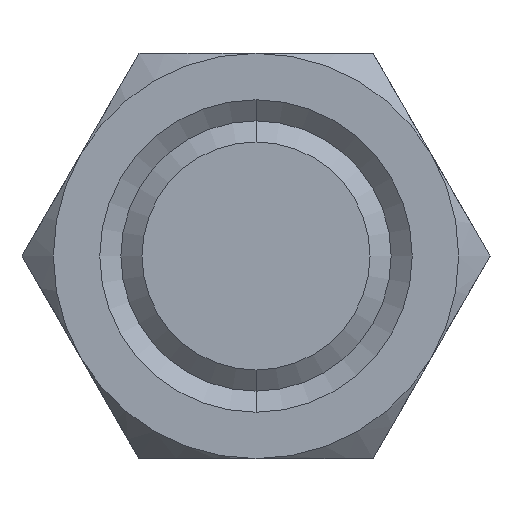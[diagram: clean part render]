
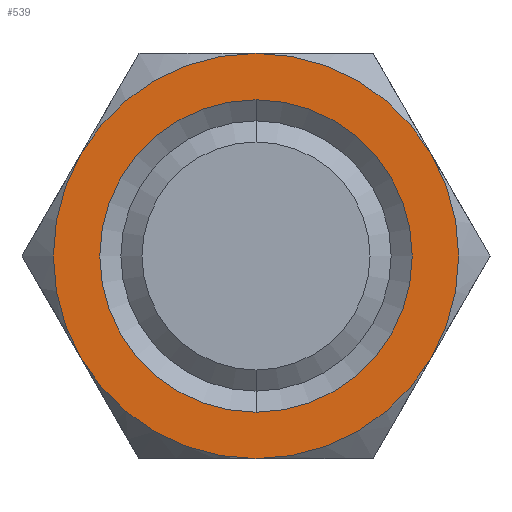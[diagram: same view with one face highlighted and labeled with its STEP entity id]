
A CAD part, front view. The second image highlights one B-rep face of the part: STEP entity #539.
In plain terms, the highlighted planar face has unit normal (0, -1, 0).
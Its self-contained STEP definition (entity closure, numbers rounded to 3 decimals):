
#539 = ADVANCED_FACE ( 'NONE', ( #2304, #2303 ), #2302, .F. ) ;
#540 = EDGE_LOOP ( 'NONE', ( #541, #545, #624, #627, #630, #633 ) ) ;
#541 = ORIENTED_EDGE ( 'NONE', *, *, #542, .F. ) ;
#542 = EDGE_CURVE ( 'NONE', #543, #544, #2295, .T. ) ;
#543 = VERTEX_POINT ( 'NONE', #2354 ) ;
#544 = VERTEX_POINT ( 'NONE', #2353 ) ;
#545 = ORIENTED_EDGE ( 'NONE', *, *, #622, .F. ) ;
#568 = VERTEX_POINT ( 'NONE', #2366 ) ;
#570 = EDGE_CURVE ( 'NONE', #568, #571, #2365, .T. ) ;
#571 = VERTEX_POINT ( 'NONE', #2360 ) ;
#609 = ORIENTED_EDGE ( 'NONE', *, *, #610, .F. ) ;
#610 = EDGE_CURVE ( 'NONE', #571, #568, #2418, .T. ) ;
#611 = ORIENTED_EDGE ( 'NONE', *, *, #570, .F. ) ;
#622 = EDGE_CURVE ( 'NONE', #623, #543, #2452, .T. ) ;
#623 = VERTEX_POINT ( 'NONE', #2444 ) ;
#624 = ORIENTED_EDGE ( 'NONE', *, *, #625, .F. ) ;
#625 = EDGE_CURVE ( 'NONE', #626, #623, #2506, .T. ) ;
#626 = VERTEX_POINT ( 'NONE', #2501 ) ;
#627 = ORIENTED_EDGE ( 'NONE', *, *, #628, .F. ) ;
#628 = EDGE_CURVE ( 'NONE', #629, #626, #2500, .T. ) ;
#629 = VERTEX_POINT ( 'NONE', #2495 ) ;
#630 = ORIENTED_EDGE ( 'NONE', *, *, #631, .T. ) ;
#631 = EDGE_CURVE ( 'NONE', #629, #632, #2494, .T. ) ;
#632 = VERTEX_POINT ( 'NONE', #2489 ) ;
#633 = ORIENTED_EDGE ( 'NONE', *, *, #634, .F. ) ;
#634 = EDGE_CURVE ( 'NONE', #544, #632, #2488, .T. ) ;
#635 = EDGE_LOOP ( 'NONE', ( #609, #611 ) ) ;
#2292 = DIRECTION ( 'NONE',  ( 0., 0., 1. ) ) ;
#2293 = DIRECTION ( 'NONE',  ( 0., 1., 0. ) ) ;
#2294 = AXIS2_PLACEMENT_3D ( 'NONE', #2300, #2293, #2292 ) ;
#2295 = CIRCLE ( 'NONE', #2294, 18. ) ;
#2297 = DIRECTION ( 'NONE',  ( 0., 0., 1. ) ) ;
#2298 = DIRECTION ( 'NONE',  ( 0., 1., 0. ) ) ;
#2299 = CARTESIAN_POINT ( 'NONE',  ( 20.785, 0., 0. ) ) ;
#2300 = CARTESIAN_POINT ( 'NONE',  ( 0., 0., 0. ) ) ;
#2301 = AXIS2_PLACEMENT_3D ( 'NONE', #2299, #2298, #2297 ) ;
#2302 = PLANE ( 'NONE',  #2301 ) ;
#2303 = FACE_BOUND ( 'NONE', #635, .T. ) ;
#2304 = FACE_OUTER_BOUND ( 'NONE', #540, .T. ) ;
#2353 = CARTESIAN_POINT ( 'NONE',  ( 15.588, 0., 9. ) ) ;
#2354 = CARTESIAN_POINT ( 'NONE',  ( 0., 0., 18. ) ) ;
#2360 = CARTESIAN_POINT ( 'NONE',  ( 0., 0., -13.873 ) ) ;
#2361 = DIRECTION ( 'NONE',  ( 0., 0., -1. ) ) ;
#2362 = DIRECTION ( 'NONE',  ( 0., -1., 0. ) ) ;
#2363 = CARTESIAN_POINT ( 'NONE',  ( 0., 0., 0. ) ) ;
#2364 = AXIS2_PLACEMENT_3D ( 'NONE', #2363, #2362, #2361 ) ;
#2365 = CIRCLE ( 'NONE', #2364, 13.873 ) ;
#2366 = CARTESIAN_POINT ( 'NONE',  ( 0., 0., 13.873 ) ) ;
#2418 = CIRCLE ( 'NONE', #2475, 13.873 ) ;
#2444 = CARTESIAN_POINT ( 'NONE',  ( -15.588, 0., 9. ) ) ;
#2445 = DIRECTION ( 'NONE',  ( 0., 0., 1. ) ) ;
#2446 = DIRECTION ( 'NONE',  ( 0., 1., 0. ) ) ;
#2447 = CARTESIAN_POINT ( 'NONE',  ( 0., 0., 0. ) ) ;
#2448 = AXIS2_PLACEMENT_3D ( 'NONE', #2447, #2446, #2445 ) ;
#2452 = CIRCLE ( 'NONE', #2448, 18. ) ;
#2472 = DIRECTION ( 'NONE',  ( 0., 0., -1. ) ) ;
#2473 = DIRECTION ( 'NONE',  ( 0., -1., 0. ) ) ;
#2474 = CARTESIAN_POINT ( 'NONE',  ( 0., 0., 0. ) ) ;
#2475 = AXIS2_PLACEMENT_3D ( 'NONE', #2474, #2473, #2472 ) ;
#2484 = DIRECTION ( 'NONE',  ( 0., 0., 1. ) ) ;
#2485 = DIRECTION ( 'NONE',  ( 0., 1., 0. ) ) ;
#2486 = CARTESIAN_POINT ( 'NONE',  ( 0., 0., 0. ) ) ;
#2487 = AXIS2_PLACEMENT_3D ( 'NONE', #2486, #2485, #2484 ) ;
#2488 = CIRCLE ( 'NONE', #2487, 18. ) ;
#2489 = CARTESIAN_POINT ( 'NONE',  ( 15.588, 0., -9. ) ) ;
#2490 = DIRECTION ( 'NONE',  ( 0., 0., -1. ) ) ;
#2491 = DIRECTION ( 'NONE',  ( 0., -1., 0. ) ) ;
#2492 = CARTESIAN_POINT ( 'NONE',  ( 0., 0., 0. ) ) ;
#2493 = AXIS2_PLACEMENT_3D ( 'NONE', #2492, #2491, #2490 ) ;
#2494 = CIRCLE ( 'NONE', #2493, 18. ) ;
#2495 = CARTESIAN_POINT ( 'NONE',  ( 0., 0., -18. ) ) ;
#2496 = DIRECTION ( 'NONE',  ( 0., 0., 1. ) ) ;
#2497 = DIRECTION ( 'NONE',  ( 0., 1., 0. ) ) ;
#2498 = CARTESIAN_POINT ( 'NONE',  ( 0., 0., 0. ) ) ;
#2499 = AXIS2_PLACEMENT_3D ( 'NONE', #2498, #2497, #2496 ) ;
#2500 = CIRCLE ( 'NONE', #2499, 18. ) ;
#2501 = CARTESIAN_POINT ( 'NONE',  ( -15.588, 0., -9. ) ) ;
#2502 = DIRECTION ( 'NONE',  ( 0., 0., 1. ) ) ;
#2503 = DIRECTION ( 'NONE',  ( 0., 1., 0. ) ) ;
#2504 = CARTESIAN_POINT ( 'NONE',  ( 0., 0., 0. ) ) ;
#2505 = AXIS2_PLACEMENT_3D ( 'NONE', #2504, #2503, #2502 ) ;
#2506 = CIRCLE ( 'NONE', #2505, 18. ) ;
